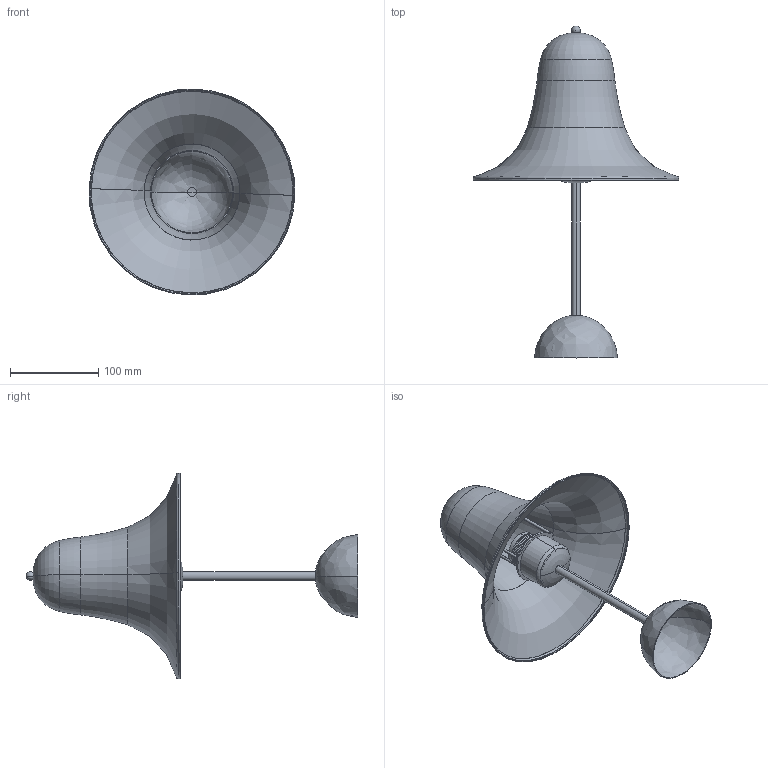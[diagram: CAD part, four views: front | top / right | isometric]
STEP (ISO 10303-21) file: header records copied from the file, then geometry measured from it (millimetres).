
FILE_DESCRIPTION (( 'STEP AP214' ), '1' );
FILE_NAME ('Pantop table Ø23,3cm LAMPE.STEP', '2020-10-01T06:59:51', ( '' ), ( '' ), 'SwSTEP 2.0', 'SolidWorks 2020', '' );
FILE_SCHEMA (( 'AUTOMOTIVE_DESIGN' ));
Length unit declared in the file: millimetre
Products named in the file (13): pantop  shade ø23,3cm; pantop skærmbeslag ø23,3cm; 70346 E27 Socket outer shell, fully threaded, TP FPL, black; Pantop table Ø23,3cm LAMPE; 38214 Terminal, blue; pantop skærmbeslag topdims ø23,3cm; pantop cup ø23,3cm; pantop base ø23,3cm; 38330 Cable protector E27 KL.2 white; E27 socket black threaded TP FPL, 70352+70342+70346+381034+38330_For 1mm plate; 70342 E27 Socket insert, TP FPL; 70352 E27 Socket bottom, black TP FPL; pantop topkugle ø23,3cm
Assembly tree (13 placements, depth 3):
  Pantop table Ø23,3cm LAMPE
    pantop base ø23,3cm
    E27 socket black threaded TP FPL, 70352+70342+70346+381034+38330_For 1mm plate
      70352 E27 Socket bottom, black TP FPL
      70342 E27 Socket insert, TP FPL
      70346 E27 Socket outer shell, fully threaded, TP FPL, black
      38214 Terminal, blue  x2
      38330 Cable protector E27 KL.2 white
    pantop cup ø23,3cm
    pantop skærmbeslag ø23,3cm
    pantop  shade ø23,3cm
    pantop skærmbeslag topdims ø23,3cm
    pantop topkugle ø23,3cm
Bounding box: 232.87 x 375.29 x 232.87 mm (x, y, z)
Volume: 146688.8 mm3; surface area: 231514.6 mm2
Topology: 14 solids, 14 shells, 330 faces, 737 edges, 441 vertices
Faces by surface type: cylinder 120, plane 78, cone 72, torus 52, bspline 6, sphere 2
Entity records: 9683 total; most frequent: CARTESIAN_POINT 1887, DIRECTION 1723, ORIENTED_EDGE 1396, AXIS2_PLACEMENT_3D 722, EDGE_CURVE 698, VERTEX_POINT 422, CIRCLE 395, EDGE_LOOP 350
